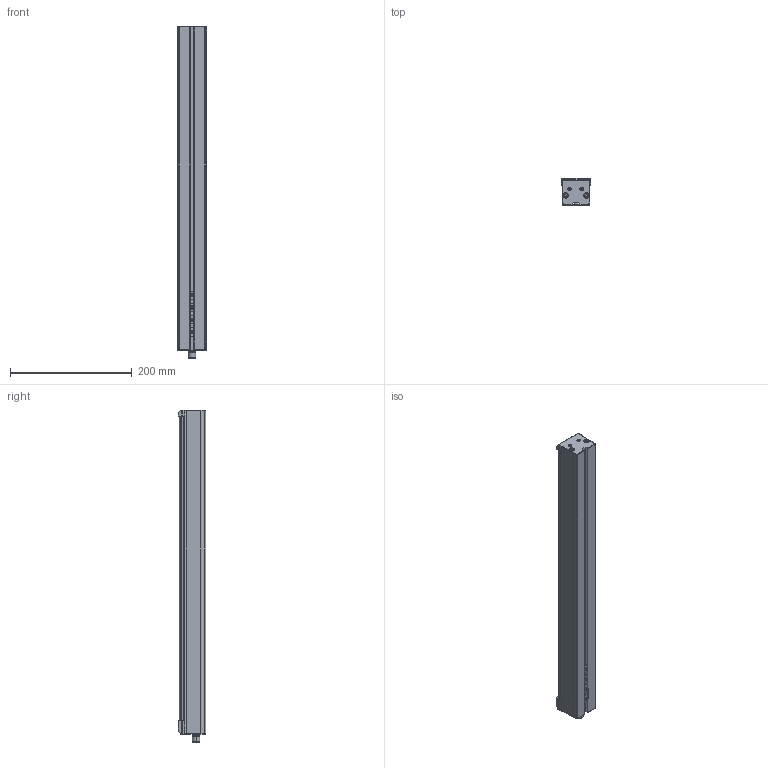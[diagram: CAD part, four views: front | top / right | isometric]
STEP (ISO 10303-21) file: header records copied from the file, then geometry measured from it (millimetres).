
FILE_DESCRIPTION (( 'STEP AP214' ), '1' );
FILE_NAME ('EBAR-EC-500-xxx-xx_CLIENT.STEP', '2026-06-04T10:47:57', ( '' ), ( '' ), 'SwSTEP 2.0', 'SolidWorks 2025', '' );
FILE_SCHEMA (( 'AUTOMOTIVE_DESIGN' ));
Length unit declared in the file: millimetre
Products named in the file (3): 1-X2014-01-3-A; EBAR-EC-500-xxx-xx_CLIENT; EBAR-EC-xxx-xxx-xx_CLIENT_500
Assembly tree (5 placements, depth 2):
  EBAR-EC-500-xxx-xx_CLIENT
    EBAR-EC-xxx-xxx-xx_CLIENT_500
    1-X2014-01-3-A  x4
Bounding box: 47.63 x 45 x 545.06 mm (x, y, z)
Volume: 944541.8 mm3; surface area: 117537 mm2
Topology: 5 solids, 5 shells, 785 faces, 2005 edges, 1288 vertices
Faces by surface type: plane 341, cylinder 227, bspline 131, torus 62, cone 20, sphere 4
Entity records: 26495 total; most frequent: CARTESIAN_POINT 9555, ORIENTED_EDGE 3600, DIRECTION 3087, EDGE_CURVE 1800, VERTEX_POINT 1163, AXIS2_PLACEMENT_3D 1067, LINE 953, VECTOR 953
